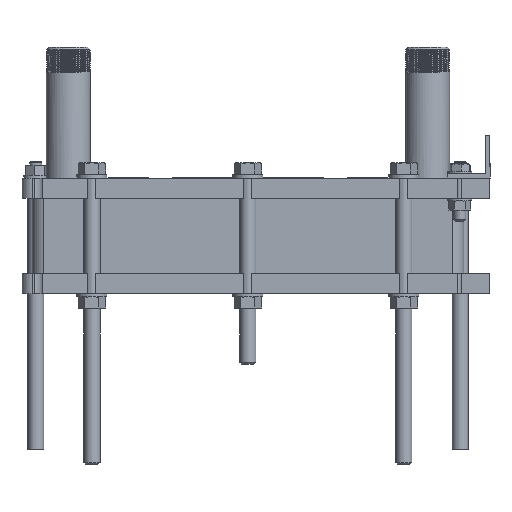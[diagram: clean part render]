
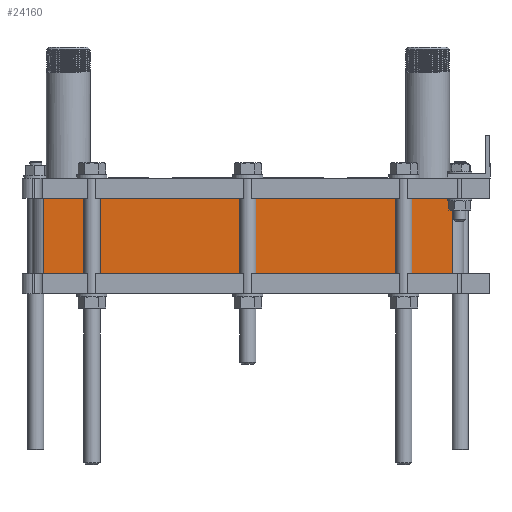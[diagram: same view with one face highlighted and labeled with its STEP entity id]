
A CAD part, left-side view. The second image highlights one B-rep face of the part: STEP entity #24160.
In plain terms, the highlighted planar face has unit normal (-1, 0, 0).
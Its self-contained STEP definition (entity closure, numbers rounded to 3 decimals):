
#1611 = LINE ( 'NONE', #89562, #76369 ) ;
#7866 = AXIS2_PLACEMENT_3D ( 'NONE', #85762, #38167, #45920 ) ;
#11659 = CARTESIAN_POINT ( 'NONE',  ( 26.5, 37.159, -62. ) ) ;
#15895 = CARTESIAN_POINT ( 'NONE',  ( 26.5, 240.5, -137. ) ) ;
#16000 = ORIENTED_EDGE ( 'NONE', *, *, #47057, .F. ) ;
#20913 = VERTEX_POINT ( 'NONE', #86054 ) ;
#24160 = ADVANCED_FACE ( 'NONE', ( #65386 ), #70243, .T. ) ;
#24729 = ORIENTED_EDGE ( 'NONE', *, *, #79732, .T. ) ;
#27399 = VECTOR ( 'NONE', #45558, 1000. ) ;
#28219 = ORIENTED_EDGE ( 'NONE', *, *, #85340, .F. ) ;
#29302 = VECTOR ( 'NONE', #75339, 1000. ) ;
#34887 = DIRECTION ( 'NONE',  ( 0., 0., -1. ) ) ;
#38080 = CARTESIAN_POINT ( 'NONE',  ( 26.5, 443.841, -62. ) ) ;
#38167 = DIRECTION ( 'NONE',  ( -1., 0., 0. ) ) ;
#41921 = LINE ( 'NONE', #15895, #27399 ) ;
#45479 = EDGE_LOOP ( 'NONE', ( #16000, #24729, #95106, #28219 ) ) ;
#45558 = DIRECTION ( 'NONE',  ( 0., 1., 0. ) ) ;
#45920 = DIRECTION ( 'NONE',  ( 0., 1., 0. ) ) ;
#47057 = EDGE_CURVE ( 'NONE', #82174, #81791, #89620, .T. ) ;
#54133 = VERTEX_POINT ( 'NONE', #92867 ) ;
#56278 = DIRECTION ( 'NONE',  ( 0., -1., 0. ) ) ;
#58421 = CARTESIAN_POINT ( 'NONE',  ( 26.5, 37.159, -62. ) ) ;
#61795 = VECTOR ( 'NONE', #56278, 1000. ) ;
#65386 = FACE_OUTER_BOUND ( 'NONE', #45479, .T. ) ;
#70243 = PLANE ( 'NONE',  #7866 ) ;
#75149 = LINE ( 'NONE', #11659, #29302 ) ;
#75339 = DIRECTION ( 'NONE',  ( 0., 0., -1. ) ) ;
#76369 = VECTOR ( 'NONE', #34887, 1000. ) ;
#79732 = EDGE_CURVE ( 'NONE', #82174, #54133, #1611, .T. ) ;
#81791 = VERTEX_POINT ( 'NONE', #58421 ) ;
#82174 = VERTEX_POINT ( 'NONE', #38080 ) ;
#85340 = EDGE_CURVE ( 'NONE', #81791, #20913, #75149, .T. ) ;
#85762 = CARTESIAN_POINT ( 'NONE',  ( 26.5, 37.159, -62. ) ) ;
#86054 = CARTESIAN_POINT ( 'NONE',  ( 26.5, 37.159, -137. ) ) ;
#89562 = CARTESIAN_POINT ( 'NONE',  ( 26.5, 443.841, -62. ) ) ;
#89620 = LINE ( 'NONE', #94064, #61795 ) ;
#92867 = CARTESIAN_POINT ( 'NONE',  ( 26.5, 443.841, -137. ) ) ;
#94064 = CARTESIAN_POINT ( 'NONE',  ( 26.5, 240.5, -62. ) ) ;
#94770 = EDGE_CURVE ( 'NONE', #20913, #54133, #41921, .T. ) ;
#95106 = ORIENTED_EDGE ( 'NONE', *, *, #94770, .F. ) ;
